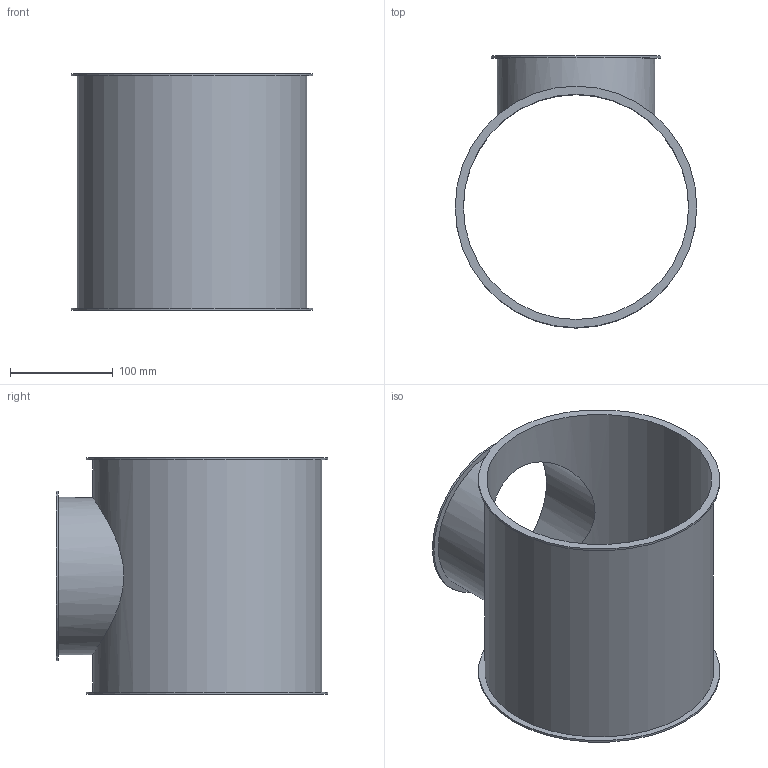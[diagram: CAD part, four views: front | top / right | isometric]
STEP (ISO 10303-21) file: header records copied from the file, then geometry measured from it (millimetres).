
FILE_DESCRIPTION((''),'2;1');
FILE_NAME('U:\Wolfgang\Marcel-3D\fertig\Kapitel 4\2221039.stp','2011-04-21T08:25:59',('TK1'),(''),'Autodesk Inventor 2010','Autodesk Inventor 2010','');
FILE_SCHEMA(('AUTOMOTIVE_DESIGN { 1 0 10303 214 1 1 1 1 }'));
Length unit declared in the file: millimetre
Products named in the file (1): 2221039
Bounding box: 235 x 264.5 x 230 mm (x, y, z)
Volume: 349191.6 mm3; surface area: 356473.3 mm2
Topology: 1 solids, 1 shells, 13 faces, 23 edges, 16 vertices
Faces by surface type: cylinder 7, plane 6
Full cylindrical faces by diameter (mm): 149 x1, 153 x1, 165 x1, 219 x1, 223 x1, 235 x2
Entity records: 432 total; most frequent: CARTESIAN_POINT 172, DIRECTION 52, ORIENTED_EDGE 28, EDGE_LOOP 28, AXIS2_PLACEMENT_3D 26, FACE_BOUND 15, VERTEX_POINT 14, EDGE_CURVE 14
